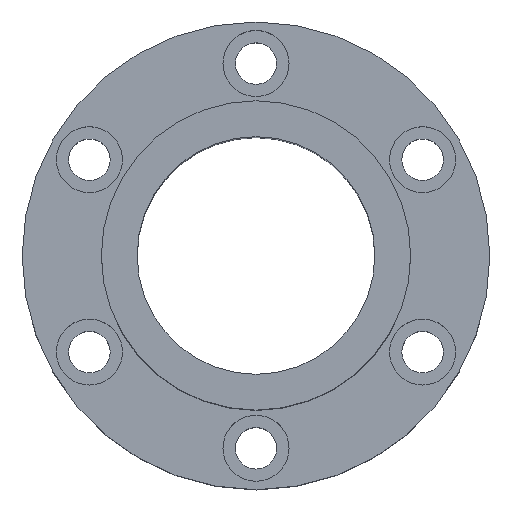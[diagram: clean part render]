
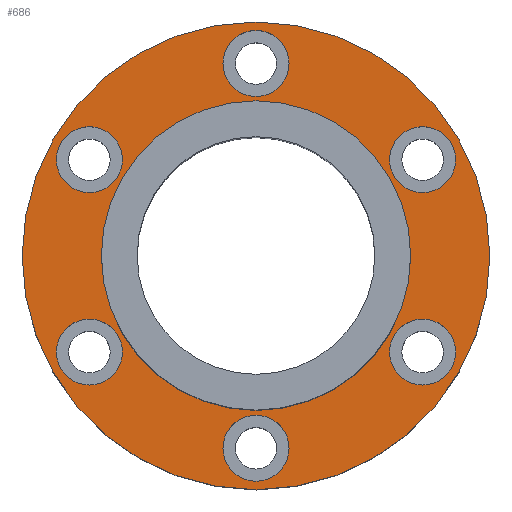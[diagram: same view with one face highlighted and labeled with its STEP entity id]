
A CAD part, top view. The second image highlights one B-rep face of the part: STEP entity #686.
In plain terms, the highlighted planar face has unit normal (0, 0, 1).
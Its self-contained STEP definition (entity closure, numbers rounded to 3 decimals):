
#1=CARTESIAN_POINT('',(0.,0.,21.5));
#2=DIRECTION('',(0.,0.,1.));
#3=DIRECTION('',(1.,0.,0.));
#4=AXIS2_PLACEMENT_3D('',#1,#2,#3);
#6=CARTESIAN_POINT('',(0.,0.,21.5));
#7=DIRECTION('',(0.,0.,1.));
#8=DIRECTION('',(-1.,0.,0.));
#9=AXIS2_PLACEMENT_3D('',#6,#7,#8);
#11=CARTESIAN_POINT('',(44.167,-25.5,21.5));
#12=DIRECTION('',(0.,0.,-1.));
#13=DIRECTION('',(-0.5,-0.866,0.));
#14=AXIS2_PLACEMENT_3D('',#11,#12,#13);
#16=CARTESIAN_POINT('',(44.167,-25.5,21.5));
#17=DIRECTION('',(0.,0.,-1.));
#18=DIRECTION('',(0.5,0.866,0.));
#19=AXIS2_PLACEMENT_3D('',#16,#17,#18);
#21=CARTESIAN_POINT('',(-44.167,-25.5,21.5));
#22=DIRECTION('',(0.,0.,-1.));
#23=DIRECTION('',(-0.5,0.866,0.));
#24=AXIS2_PLACEMENT_3D('',#21,#22,#23);
#26=CARTESIAN_POINT('',(-44.167,-25.5,21.5));
#27=DIRECTION('',(0.,0.,-1.));
#28=DIRECTION('',(0.5,-0.866,0.));
#29=AXIS2_PLACEMENT_3D('',#26,#27,#28);
#31=CARTESIAN_POINT('',(0.,51.,21.5));
#32=DIRECTION('',(0.,0.,-1.));
#33=DIRECTION('',(1.,0.,0.));
#34=AXIS2_PLACEMENT_3D('',#31,#32,#33);
#36=CARTESIAN_POINT('',(0.,51.,21.5));
#37=DIRECTION('',(0.,0.,-1.));
#38=DIRECTION('',(-1.,0.,0.));
#39=AXIS2_PLACEMENT_3D('',#36,#37,#38);
#41=CARTESIAN_POINT('',(0.,0.,21.5));
#42=DIRECTION('',(0.,0.,-1.));
#43=DIRECTION('',(1.,0.,0.));
#44=AXIS2_PLACEMENT_3D('',#41,#42,#43);
#46=CARTESIAN_POINT('',(0.,0.,21.5));
#47=DIRECTION('',(0.,0.,-1.));
#48=DIRECTION('',(-1.,0.,0.));
#49=AXIS2_PLACEMENT_3D('',#46,#47,#48);
#51=CARTESIAN_POINT('',(-44.167,25.5,21.5));
#52=DIRECTION('',(0.,0.,-1.));
#53=DIRECTION('',(0.5,0.866,0.));
#54=AXIS2_PLACEMENT_3D('',#51,#52,#53);
#56=CARTESIAN_POINT('',(-44.167,25.5,21.5));
#57=DIRECTION('',(0.,0.,-1.));
#58=DIRECTION('',(-0.5,-0.866,0.));
#59=AXIS2_PLACEMENT_3D('',#56,#57,#58);
#61=CARTESIAN_POINT('',(0.,-51.,21.5));
#62=DIRECTION('',(0.,0.,-1.));
#63=DIRECTION('',(-1.,0.,0.));
#64=AXIS2_PLACEMENT_3D('',#61,#62,#63);
#66=CARTESIAN_POINT('',(0.,-51.,21.5));
#67=DIRECTION('',(0.,0.,-1.));
#68=DIRECTION('',(1.,0.,0.));
#69=AXIS2_PLACEMENT_3D('',#66,#67,#68);
#71=CARTESIAN_POINT('',(44.167,25.5,21.5));
#72=DIRECTION('',(0.,0.,-1.));
#73=DIRECTION('',(0.5,-0.866,0.));
#74=AXIS2_PLACEMENT_3D('',#71,#72,#73);
#76=CARTESIAN_POINT('',(44.167,25.5,21.5));
#77=DIRECTION('',(0.,0.,-1.));
#78=DIRECTION('',(-0.5,0.866,0.));
#79=AXIS2_PLACEMENT_3D('',#76,#77,#78);
#561=CARTESIAN_POINT('',(-62.,0.,21.5));
#563=VERTEX_POINT('',#561);
#565=CARTESIAN_POINT('',(62.,0.,21.5));
#567=VERTEX_POINT('',#565);
#569=CARTESIAN_POINT('',(8.75,51.,21.5));
#571=VERTEX_POINT('',#569);
#573=CARTESIAN_POINT('',(-8.75,51.,21.5));
#575=VERTEX_POINT('',#573);
#577=CARTESIAN_POINT('',(-39.792,33.078,21.5));
#579=VERTEX_POINT('',#577);
#581=CARTESIAN_POINT('',(-48.542,17.922,21.5));
#583=VERTEX_POINT('',#581);
#585=CARTESIAN_POINT('',(-48.542,-17.922,21.5));
#587=VERTEX_POINT('',#585);
#589=CARTESIAN_POINT('',(-39.792,-33.078,21.5));
#591=VERTEX_POINT('',#589);
#593=CARTESIAN_POINT('',(-8.75,-51.,21.5));
#595=VERTEX_POINT('',#593);
#597=CARTESIAN_POINT('',(8.75,-51.,21.5));
#599=VERTEX_POINT('',#597);
#601=CARTESIAN_POINT('',(39.792,-33.078,21.5));
#603=VERTEX_POINT('',#601);
#605=CARTESIAN_POINT('',(48.542,-17.922,21.5));
#607=VERTEX_POINT('',#605);
#609=CARTESIAN_POINT('',(48.542,17.922,21.5));
#611=VERTEX_POINT('',#609);
#613=CARTESIAN_POINT('',(39.792,33.078,21.5));
#615=VERTEX_POINT('',#613);
#626=CARTESIAN_POINT('',(41.,0.,21.5));
#628=VERTEX_POINT('',#626);
#630=CARTESIAN_POINT('',(-41.,0.,21.5));
#632=VERTEX_POINT('',#630);
#633=CARTESIAN_POINT('',(0.,0.,21.5));
#634=DIRECTION('',(0.,0.,1.));
#635=DIRECTION('',(1.,0.,0.));
#636=AXIS2_PLACEMENT_3D('',#633,#634,#635);
#637=PLANE('',#636);
#639=ORIENTED_EDGE('',*,*,#638,.F.);
#641=ORIENTED_EDGE('',*,*,#640,.F.);
#642=EDGE_LOOP('',(#639,#641));
#643=FACE_OUTER_BOUND('',#642,.F.);
#645=ORIENTED_EDGE('',*,*,#644,.F.);
#647=ORIENTED_EDGE('',*,*,#646,.F.);
#648=EDGE_LOOP('',(#645,#647));
#649=FACE_BOUND('',#648,.F.);
#651=ORIENTED_EDGE('',*,*,#650,.F.);
#653=ORIENTED_EDGE('',*,*,#652,.F.);
#654=EDGE_LOOP('',(#651,#653));
#655=FACE_BOUND('',#654,.F.);
#657=ORIENTED_EDGE('',*,*,#656,.F.);
#659=ORIENTED_EDGE('',*,*,#658,.F.);
#660=EDGE_LOOP('',(#657,#659));
#661=FACE_BOUND('',#660,.F.);
#663=ORIENTED_EDGE('',*,*,#662,.F.);
#665=ORIENTED_EDGE('',*,*,#664,.F.);
#666=EDGE_LOOP('',(#663,#665));
#667=FACE_BOUND('',#666,.F.);
#669=ORIENTED_EDGE('',*,*,#668,.F.);
#671=ORIENTED_EDGE('',*,*,#670,.F.);
#672=EDGE_LOOP('',(#669,#671));
#673=FACE_BOUND('',#672,.F.);
#675=ORIENTED_EDGE('',*,*,#674,.F.);
#677=ORIENTED_EDGE('',*,*,#676,.F.);
#678=EDGE_LOOP('',(#675,#677));
#679=FACE_BOUND('',#678,.F.);
#681=ORIENTED_EDGE('',*,*,#680,.F.);
#683=ORIENTED_EDGE('',*,*,#682,.F.);
#684=EDGE_LOOP('',(#681,#683));
#685=FACE_BOUND('',#684,.F.);
#686=ADVANCED_FACE('',(#643,#649,#655,#661,#667,#673,#679,#685),#637,.T.);
#5=CIRCLE('',#4,62.);
#10=CIRCLE('',#9,62.);
#15=CIRCLE('',#14,8.75);
#20=CIRCLE('',#19,8.75);
#25=CIRCLE('',#24,8.75);
#30=CIRCLE('',#29,8.75);
#35=CIRCLE('',#34,8.75);
#40=CIRCLE('',#39,8.75);
#45=CIRCLE('',#44,41.);
#50=CIRCLE('',#49,41.);
#55=CIRCLE('',#54,8.75);
#60=CIRCLE('',#59,8.75);
#65=CIRCLE('',#64,8.75);
#70=CIRCLE('',#69,8.75);
#75=CIRCLE('',#74,8.75);
#80=CIRCLE('',#79,8.75);
#638=EDGE_CURVE('',#567,#563,#5,.T.);
#640=EDGE_CURVE('',#563,#567,#10,.T.);
#644=EDGE_CURVE('',#603,#607,#15,.T.);
#646=EDGE_CURVE('',#607,#603,#20,.T.);
#650=EDGE_CURVE('',#587,#591,#25,.T.);
#652=EDGE_CURVE('',#591,#587,#30,.T.);
#656=EDGE_CURVE('',#571,#575,#35,.T.);
#658=EDGE_CURVE('',#575,#571,#40,.T.);
#662=EDGE_CURVE('',#628,#632,#45,.T.);
#664=EDGE_CURVE('',#632,#628,#50,.T.);
#668=EDGE_CURVE('',#579,#583,#55,.T.);
#670=EDGE_CURVE('',#583,#579,#60,.T.);
#674=EDGE_CURVE('',#595,#599,#65,.T.);
#676=EDGE_CURVE('',#599,#595,#70,.T.);
#680=EDGE_CURVE('',#611,#615,#75,.T.);
#682=EDGE_CURVE('',#615,#611,#80,.T.);
